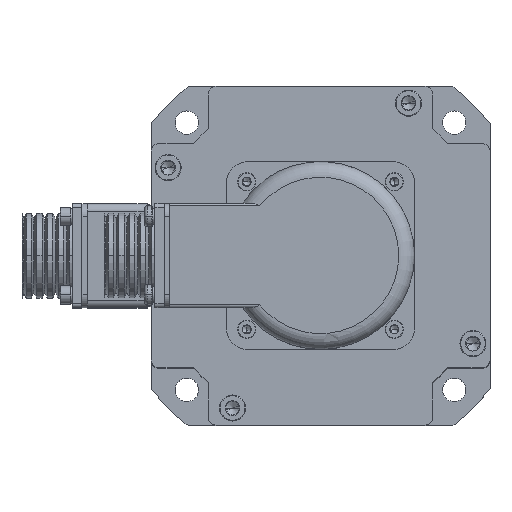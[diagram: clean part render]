
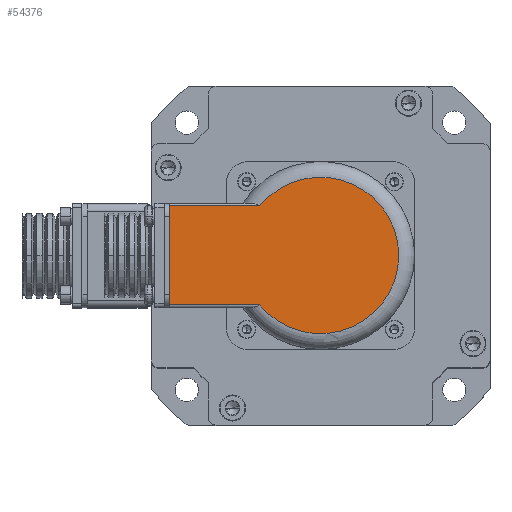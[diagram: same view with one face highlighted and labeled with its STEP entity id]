
A CAD part, top view. The second image highlights one B-rep face of the part: STEP entity #54376.
In plain terms, the highlighted planar face has unit normal (0, 0, 1) as drawn and (1, 0, 0) by its records, which use the part's own axes.
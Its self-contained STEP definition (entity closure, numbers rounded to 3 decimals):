
#52840=DIRECTION('',(0.,1.,0.));
#52841=VECTOR('',#52840,34.784);
#52842=CARTESIAN_POINT('',(43.,23.216,-19.));
#52843=LINE('',#52842,#52841);
#52848=CARTESIAN_POINT('',(43.,0.,0.));
#52849=DIRECTION('',(-1.,0.,0.));
#52850=DIRECTION('',(0.,0.774,-0.633));
#52851=AXIS2_PLACEMENT_3D('',#52848,#52849,#52850);
#52853=CARTESIAN_POINT('',(43.,0.,0.));
#52854=DIRECTION('',(-1.,0.,0.));
#52855=DIRECTION('',(0.,-1.,0.001));
#52856=AXIS2_PLACEMENT_3D('',#52853,#52854,#52855);
#52858=DIRECTION('',(0.,-1.,0.));
#52859=VECTOR('',#52858,34.784);
#52860=CARTESIAN_POINT('',(43.,58.,19.));
#52861=LINE('',#52860,#52859);
#52898=DIRECTION('',(0.,0.,1.));
#52899=VECTOR('',#52898,38.);
#52900=CARTESIAN_POINT('',(43.,58.,-19.));
#52901=LINE('',#52900,#52899);
#53896=CARTESIAN_POINT('',(43.,23.216,-19.));
#53897=CARTESIAN_POINT('',(43.,58.,-19.));
#53898=VERTEX_POINT('',#53896);
#53899=VERTEX_POINT('',#53897);
#53900=CARTESIAN_POINT('',(43.,58.,19.));
#53901=CARTESIAN_POINT('',(43.,23.216,19.));
#53902=VERTEX_POINT('',#53900);
#53903=VERTEX_POINT('',#53901);
#53904=CARTESIAN_POINT('',(43.,-30.,0.033));
#53905=VERTEX_POINT('',#53904);
#54360=CARTESIAN_POINT('',(43.,0.,0.));
#54361=DIRECTION('',(1.,0.,0.));
#54362=DIRECTION('',(0.,-1.,0.));
#54363=AXIS2_PLACEMENT_3D('',#54360,#54361,#54362);
#54364=PLANE('',#54363);
#54366=ORIENTED_EDGE('',*,*,#54365,.F.);
#54368=ORIENTED_EDGE('',*,*,#54367,.F.);
#54369=ORIENTED_EDGE('',*,*,#54343,.F.);
#54371=ORIENTED_EDGE('',*,*,#54370,.T.);
#54373=ORIENTED_EDGE('',*,*,#54372,.T.);
#54374=EDGE_LOOP('',(#54366,#54368,#54369,#54371,#54373));
#54375=FACE_OUTER_BOUND('',#54374,.F.);
#54376=ADVANCED_FACE('',(#54375),#54364,.T.);
#52852=CIRCLE('',#52851,30.);
#52857=CIRCLE('',#52856,30.);
#54343=EDGE_CURVE('',#53898,#53899,#52843,.T.);
#54365=EDGE_CURVE('',#53902,#53903,#52861,.T.);
#54367=EDGE_CURVE('',#53899,#53902,#52901,.T.);
#54370=EDGE_CURVE('',#53898,#53905,#52852,.T.);
#54372=EDGE_CURVE('',#53905,#53903,#52857,.T.);
